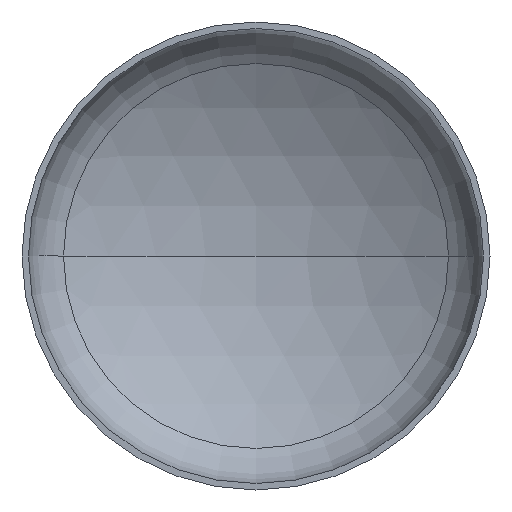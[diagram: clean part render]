
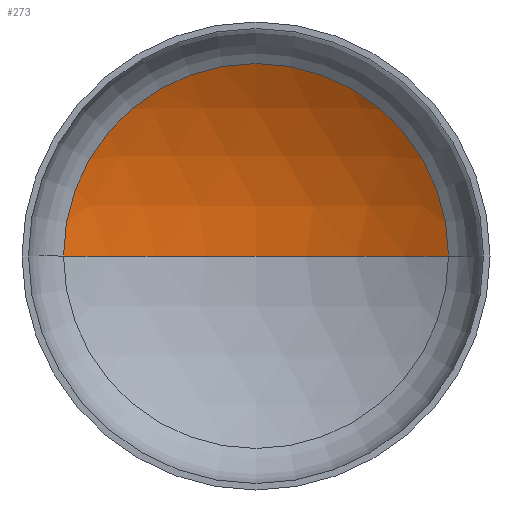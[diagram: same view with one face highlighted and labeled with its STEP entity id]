
A CAD part, front view. The second image highlights one B-rep face of the part: STEP entity #273.
In plain terms, the highlighted spherical face has radius 6000 mm.
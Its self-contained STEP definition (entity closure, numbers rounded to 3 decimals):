
#11 = AXIS2_PLACEMENT_3D ( 'NONE', #353, #381, #72 ) ;
#14 = CARTESIAN_POINT ( 'NONE',  ( -3084.83, 1065.652, 0. ) ) ;
#32 = EDGE_LOOP ( 'NONE', ( #300, #330, #391 ) ) ;
#36 = AXIS2_PLACEMENT_3D ( 'NONE', #272, #271, #270 ) ;
#37 = AXIS2_PLACEMENT_3D ( 'NONE', #329, #332, #269 ) ;
#40 = AXIS2_PLACEMENT_3D ( 'NONE', #303, #317, #309 ) ;
#59 = EDGE_CURVE ( 'NONE', #244, #235, #305, .T. ) ;
#63 = EDGE_CURVE ( 'NONE', #393, #244, #226, .T. ) ;
#64 = EDGE_CURVE ( 'NONE', #393, #235, #155, .T. ) ;
#72 = DIRECTION ( 'NONE',  ( -1., 0., 0. ) ) ;
#74 = CARTESIAN_POINT ( 'NONE',  ( 0., 1919.408, 0. ) ) ;
#155 = CIRCLE ( 'NONE', #36, 6000. ) ;
#226 = CIRCLE ( 'NONE', #37, 6000. ) ;
#235 = VERTEX_POINT ( 'NONE', #14 ) ;
#244 = VERTEX_POINT ( 'NONE', #385 ) ;
#260 = FACE_OUTER_BOUND ( 'NONE', #32, .T. ) ;
#269 = DIRECTION ( 'NONE',  ( -1., 0., 0. ) ) ;
#270 = DIRECTION ( 'NONE',  ( 1., 0., 0. ) ) ;
#271 = DIRECTION ( 'NONE',  ( 0., 0., 1. ) ) ;
#272 = CARTESIAN_POINT ( 'NONE',  ( 0., -4080.592, 0. ) ) ;
#273 = ADVANCED_FACE ( 'NONE', ( #260 ), #333, .F. ) ;
#300 = ORIENTED_EDGE ( 'NONE', *, *, #64, .F. ) ;
#303 = CARTESIAN_POINT ( 'NONE',  ( 0., 1065.652, 0. ) ) ;
#305 = CIRCLE ( 'NONE', #40, 3084.83 ) ;
#309 = DIRECTION ( 'NONE',  ( 1., 0., 0. ) ) ;
#317 = DIRECTION ( 'NONE',  ( 0., -1., 0. ) ) ;
#329 = CARTESIAN_POINT ( 'NONE',  ( 0., -4080.592, 0. ) ) ;
#330 = ORIENTED_EDGE ( 'NONE', *, *, #63, .T. ) ;
#332 = DIRECTION ( 'NONE',  ( 0., 0., -1. ) ) ;
#333 = SPHERICAL_SURFACE ( 'NONE', #11, 6000. ) ;
#353 = CARTESIAN_POINT ( 'NONE',  ( 0., -4080.592, 0. ) ) ;
#381 = DIRECTION ( 'NONE',  ( 0., 0., -1. ) ) ;
#385 = CARTESIAN_POINT ( 'NONE',  ( 3084.83, 1065.652, 0. ) ) ;
#391 = ORIENTED_EDGE ( 'NONE', *, *, #59, .T. ) ;
#393 = VERTEX_POINT ( 'NONE', #74 ) ;
